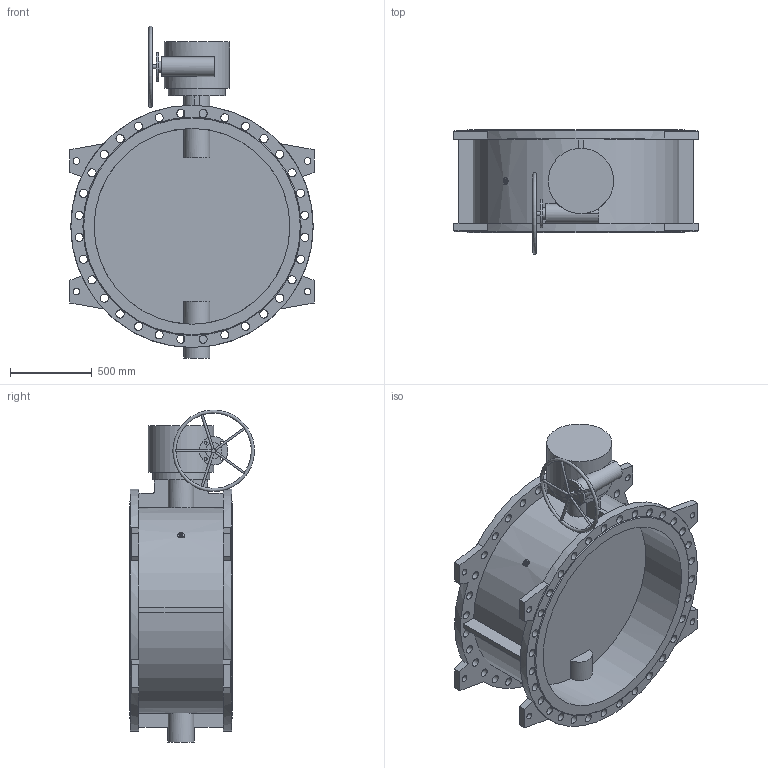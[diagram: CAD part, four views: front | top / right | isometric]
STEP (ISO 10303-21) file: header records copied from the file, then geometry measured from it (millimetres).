
FILE_DESCRIPTION(('STEP AP203'), '1');
FILE_NAME('Çàòâîð 023F.Z DN1200 PN16_ìàõ', '', ('UNSPECIFIED'), ('UNSPECIFIED'), 'ASCON STEP Converter 1.6', 'ASCON Math Kernel', '');
FILE_SCHEMA(('CONFIG_CONTROL_DESIGN'));
Length unit declared in the file: millimetre
Bounding box: 1496 x 764.35 x 2034.69 mm (x, y, z)
Volume: 280618431.4 mm3; surface area: 11158281.5 mm2
Topology: 1 solids, 1 shells, 232 faces, 601 edges, 397 vertices
Faces by surface type: cylinder 127, plane 102, cone 2, torus 1
Full cylindrical faces by diameter (mm): 14 x5, 18 x12, 23 x8, 24 x1, 40 x8, 50 x64, 70 x1, 100 x1, 120 x1, 160 x1, 175 x1, 350 x1, 400 x1, 1200 x2, 1485 x2
Entity records: 11533 total; most frequent: CARTESIAN_POINT 3928, DIRECTION 1181, ORIENTED_EDGE 968, EDGE_LOOP 531, AXIS2_PLACEMENT_3D 496, EDGE_CURVE 484, VERTEX_POINT 395, FACE_BOUND 319
